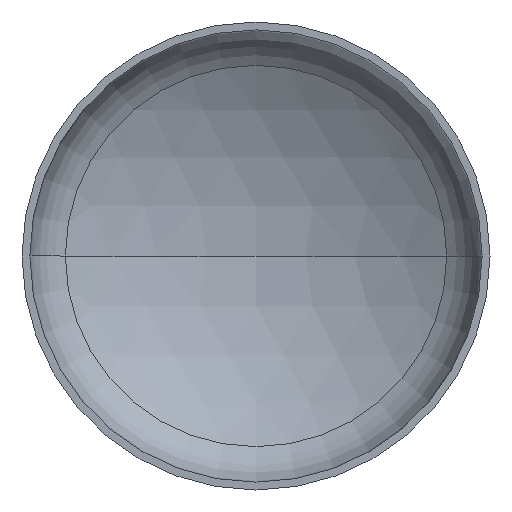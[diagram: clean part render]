
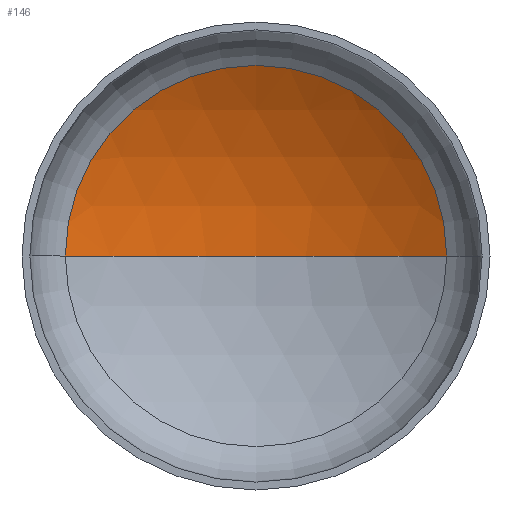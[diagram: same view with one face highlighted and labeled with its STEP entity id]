
A CAD part, front view. The second image highlights one B-rep face of the part: STEP entity #146.
In plain terms, the highlighted spherical face has radius 3600 mm.
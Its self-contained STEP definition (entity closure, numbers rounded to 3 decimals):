
#5 = AXIS2_PLACEMENT_3D ( 'NONE', #202, #15, #315 ) ;
#9 = AXIS2_PLACEMENT_3D ( 'NONE', #269, #172, #174 ) ;
#15 = DIRECTION ( 'NONE',  ( 0., 0., 1. ) ) ;
#16 = EDGE_LOOP ( 'NONE', ( #126, #125, #176 ) ) ;
#36 = CARTESIAN_POINT ( 'NONE',  ( 0., 718.182, 0. ) ) ;
#38 = AXIS2_PLACEMENT_3D ( 'NONE', #145, #316, #180 ) ;
#45 = VERTEX_POINT ( 'NONE', #375 ) ;
#46 = AXIS2_PLACEMENT_3D ( 'NONE', #36, #250, #203 ) ;
#47 = VERTEX_POINT ( 'NONE', #291 ) ;
#49 = CIRCLE ( 'NONE', #9, 3600. ) ;
#78 = VERTEX_POINT ( 'NONE', #243 ) ;
#106 = EDGE_CURVE ( 'NONE', #78, #45, #215, .T. ) ;
#125 = ORIENTED_EDGE ( 'NONE', *, *, #341, .T. ) ;
#126 = ORIENTED_EDGE ( 'NONE', *, *, #345, .F. ) ;
#145 = CARTESIAN_POINT ( 'NONE',  ( 0., -2380.317, 0. ) ) ;
#146 = ADVANCED_FACE ( 'NONE', ( #148 ), #272, .F. ) ;
#148 = FACE_OUTER_BOUND ( 'NONE', #16, .T. ) ;
#172 = DIRECTION ( 'NONE',  ( 0., 0., -1. ) ) ;
#174 = DIRECTION ( 'NONE',  ( -1., 0., 0. ) ) ;
#176 = ORIENTED_EDGE ( 'NONE', *, *, #106, .T. ) ;
#180 = DIRECTION ( 'NONE',  ( -1., 0., 0. ) ) ;
#202 = CARTESIAN_POINT ( 'NONE',  ( 0., -2380.317, 0. ) ) ;
#203 = DIRECTION ( 'NONE',  ( 1., 0., 0. ) ) ;
#215 = CIRCLE ( 'NONE', #46, 1832.84 ) ;
#241 = CIRCLE ( 'NONE', #5, 3600. ) ;
#243 = CARTESIAN_POINT ( 'NONE',  ( 1832.84, 718.182, 0. ) ) ;
#250 = DIRECTION ( 'NONE',  ( 0., -1., 0. ) ) ;
#269 = CARTESIAN_POINT ( 'NONE',  ( 0., -2380.317, 0. ) ) ;
#272 = SPHERICAL_SURFACE ( 'NONE', #38, 3600. ) ;
#291 = CARTESIAN_POINT ( 'NONE',  ( 0., 1219.683, 0. ) ) ;
#315 = DIRECTION ( 'NONE',  ( 1., 0., 0. ) ) ;
#316 = DIRECTION ( 'NONE',  ( 0., 0., -1. ) ) ;
#341 = EDGE_CURVE ( 'NONE', #47, #78, #49, .T. ) ;
#345 = EDGE_CURVE ( 'NONE', #47, #45, #241, .T. ) ;
#375 = CARTESIAN_POINT ( 'NONE',  ( -1832.84, 718.182, 0. ) ) ;
